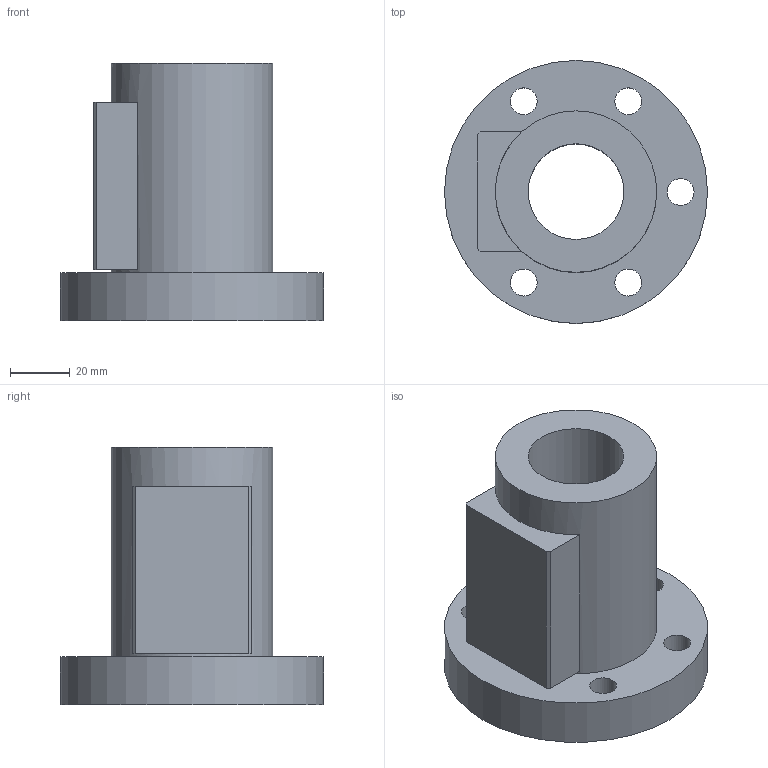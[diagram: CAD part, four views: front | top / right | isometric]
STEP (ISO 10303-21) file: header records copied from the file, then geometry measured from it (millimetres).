
FILE_DESCRIPTION(/* description */ (''),/* implementation_level */ '2;1');
FILE_NAME(/* name */ '32-8B2',/* time_stamp */ '2006-07-31T09:58:31+08:00',/* author */ (''),/* organization */ (''),/* preprocessor_version */ 'ST-DEVELOPER v9',/* originating_system */ 'UGS - NX 4.0',/* authorisation */ '');
FILE_SCHEMA (('CONFIG_CONTROL_DESIGN'));
Length unit declared in the file: millimetre
Products named in the file (1): 32-8B2
Bounding box: 88 x 88 x 86 mm (x, y, z)
Volume: 199030.9 mm3; surface area: 39806 mm2
Topology: 1 solids, 1 shells, 28 faces, 61 edges, 42 vertices
Faces by surface type: plane 15, cylinder 13
Full cylindrical faces by diameter (mm): 9 x5, 14 x5, 32 x1, 54 x1, 88 x1
Entity records: 794 total; most frequent: DIRECTION 130, CARTESIAN_POINT 111, ORIENTED_EDGE 88, EDGE_LOOP 60, AXIS2_PLACEMENT_3D 57, FACE_BOUND 45, EDGE_CURVE 44, VERTEX_POINT 38
